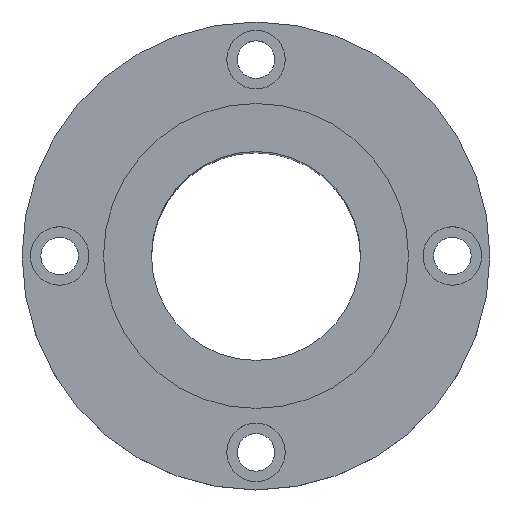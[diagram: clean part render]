
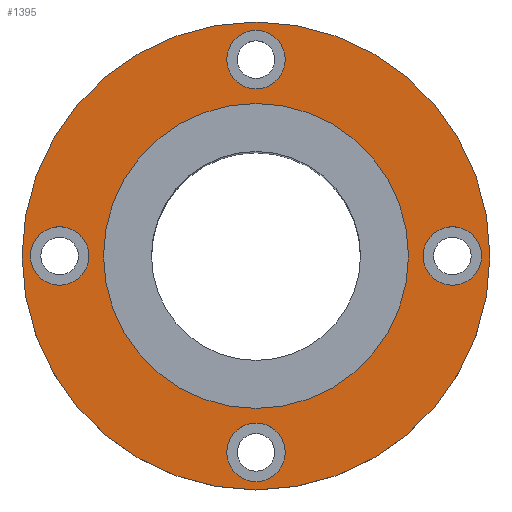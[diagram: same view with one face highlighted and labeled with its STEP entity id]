
A CAD part, top view. The second image highlights one B-rep face of the part: STEP entity #1395.
In plain terms, the highlighted planar face has unit normal (0, 0, 1).
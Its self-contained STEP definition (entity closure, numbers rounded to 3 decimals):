
#133=CARTESIAN_POINT('',(-36.5,0.,96.0));
#134=VERTEX_POINT('',#133);
#143=CARTESIAN_POINT('',(36.5,0.,96.));
#144=VERTEX_POINT('',#143);
#145=CARTESIAN_POINT('',(0.0,0.0,96.));
#146=DIRECTION('',(0.0,0.0,-1.0));
#147=DIRECTION('',(-1.0,0.0,0.0));
#148=AXIS2_PLACEMENT_3D('',#145,#146,#147);
#149=CIRCLE('',#148,36.5);
#150=EDGE_CURVE('',#144,#134,#149,.T.);
#217=CARTESIAN_POINT('',(-56.,0.,96.0));
#218=VERTEX_POINT('',#217);
#227=CARTESIAN_POINT('',(56.,0.,96.));
#228=VERTEX_POINT('',#227);
#229=CARTESIAN_POINT('',(0.0,0.0,96.));
#230=DIRECTION('',(0.0,0.0,-1.0));
#231=DIRECTION('',(-1.0,0.0,0.0));
#232=AXIS2_PLACEMENT_3D('',#229,#230,#231);
#233=CIRCLE('',#232,56.);
#234=EDGE_CURVE('',#218,#228,#233,.T.);
#345=CARTESIAN_POINT('',(54.0,0.0,96.));
#346=VERTEX_POINT('',#345);
#362=CARTESIAN_POINT('',(40.0,0.,96.));
#363=VERTEX_POINT('',#362);
#370=CARTESIAN_POINT('',(47.0,0.0,96.));
#371=DIRECTION('',(0.0,0.0,-1.0));
#372=DIRECTION('',(1.0,0.0,0.0));
#373=AXIS2_PLACEMENT_3D('',#370,#371,#372);
#374=CIRCLE('',#373,7.);
#375=EDGE_CURVE('',#346,#363,#374,.T.);
#471=CARTESIAN_POINT('',(0.,54.0,96.));
#472=VERTEX_POINT('',#471);
#488=CARTESIAN_POINT('',(0.,40.0,96.));
#489=VERTEX_POINT('',#488);
#496=CARTESIAN_POINT('',(0.,47.0,96.));
#497=DIRECTION('',(0.0,0.0,-1.0));
#498=DIRECTION('',(0.0,1.0,0.0));
#499=AXIS2_PLACEMENT_3D('',#496,#497,#498);
#500=CIRCLE('',#499,7.);
#501=EDGE_CURVE('',#472,#489,#500,.T.);
#597=CARTESIAN_POINT('',(-54.0,0.,96.));
#598=VERTEX_POINT('',#597);
#614=CARTESIAN_POINT('',(-40.0,0.,96.));
#615=VERTEX_POINT('',#614);
#622=CARTESIAN_POINT('',(-47.0,0.,96.));
#623=DIRECTION('',(0.0,0.0,-1.0));
#624=DIRECTION('',(-1.0,0.0,0.0));
#625=AXIS2_PLACEMENT_3D('',#622,#623,#624);
#626=CIRCLE('',#625,7.);
#627=EDGE_CURVE('',#598,#615,#626,.T.);
#723=CARTESIAN_POINT('',(0.,-54.0,96.));
#724=VERTEX_POINT('',#723);
#740=CARTESIAN_POINT('',(0.,-40.0,96.));
#741=VERTEX_POINT('',#740);
#748=CARTESIAN_POINT('',(0.,-47.0,96.));
#749=DIRECTION('',(0.0,0.0,-1.0));
#750=DIRECTION('',(0.0,-1.0,0.0));
#751=AXIS2_PLACEMENT_3D('',#748,#749,#750);
#752=CIRCLE('',#751,7.);
#753=EDGE_CURVE('',#724,#741,#752,.T.);
#811=CARTESIAN_POINT('',(0.,-47.0,96.));
#812=DIRECTION('',(0.0,0.0,-1.0));
#813=DIRECTION('',(0.0,-1.0,0.0));
#814=AXIS2_PLACEMENT_3D('',#811,#812,#813);
#815=CIRCLE('',#814,7.);
#816=EDGE_CURVE('',#741,#724,#815,.T.);
#915=CARTESIAN_POINT('',(-47.0,0.,96.));
#916=DIRECTION('',(0.0,0.0,-1.0));
#917=DIRECTION('',(-1.0,0.0,0.0));
#918=AXIS2_PLACEMENT_3D('',#915,#916,#917);
#919=CIRCLE('',#918,7.);
#920=EDGE_CURVE('',#615,#598,#919,.T.);
#1019=CARTESIAN_POINT('',(0.,47.0,96.));
#1020=DIRECTION('',(0.0,0.0,-1.0));
#1021=DIRECTION('',(0.0,1.0,0.0));
#1022=AXIS2_PLACEMENT_3D('',#1019,#1020,#1021);
#1023=CIRCLE('',#1022,7.);
#1024=EDGE_CURVE('',#489,#472,#1023,.T.);
#1123=CARTESIAN_POINT('',(47.0,0.0,96.));
#1124=DIRECTION('',(0.0,0.0,-1.0));
#1125=DIRECTION('',(1.0,0.0,0.0));
#1126=AXIS2_PLACEMENT_3D('',#1123,#1124,#1125);
#1127=CIRCLE('',#1126,7.);
#1128=EDGE_CURVE('',#363,#346,#1127,.T.);
#1188=CARTESIAN_POINT('',(0.0,0.0,96.));
#1189=DIRECTION('',(0.0,0.0,-1.0));
#1190=DIRECTION('',(-1.0,0.0,0.0));
#1191=AXIS2_PLACEMENT_3D('',#1188,#1189,#1190);
#1192=CIRCLE('',#1191,56.);
#1193=EDGE_CURVE('',#228,#218,#1192,.T.);
#1306=CARTESIAN_POINT('',(0.0,0.0,96.));
#1307=DIRECTION('',(0.0,0.0,-1.0));
#1308=DIRECTION('',(-1.0,0.0,0.0));
#1309=AXIS2_PLACEMENT_3D('',#1306,#1307,#1308);
#1310=CIRCLE('',#1309,36.5);
#1311=EDGE_CURVE('',#134,#144,#1310,.T.);
#1366=CARTESIAN_POINT('',(0.0,0.0,96.));
#1367=DIRECTION('',(0.0,0.0,-1.0));
#1368=DIRECTION('',(-1.0,0.0,0.0));
#1369=AXIS2_PLACEMENT_3D('',#1366,#1367,#1368);
#1370=PLANE('',#1369);
#1371=ORIENTED_EDGE('',*,*,#1193,.F.);
#1372=ORIENTED_EDGE('',*,*,#234,.F.);
#1373=EDGE_LOOP('',(#1371,#1372));
#1374=FACE_OUTER_BOUND('',#1373,.T.);
#1375=ORIENTED_EDGE('',*,*,#753,.T.);
#1376=ORIENTED_EDGE('',*,*,#816,.T.);
#1377=EDGE_LOOP('',(#1375,#1376));
#1378=FACE_BOUND('',#1377,.T.);
#1379=ORIENTED_EDGE('',*,*,#627,.T.);
#1380=ORIENTED_EDGE('',*,*,#920,.T.);
#1381=EDGE_LOOP('',(#1379,#1380));
#1382=FACE_BOUND('',#1381,.T.);
#1383=ORIENTED_EDGE('',*,*,#501,.T.);
#1384=ORIENTED_EDGE('',*,*,#1024,.T.);
#1385=EDGE_LOOP('',(#1383,#1384));
#1386=FACE_BOUND('',#1385,.T.);
#1387=ORIENTED_EDGE('',*,*,#375,.T.);
#1388=ORIENTED_EDGE('',*,*,#1128,.T.);
#1389=EDGE_LOOP('',(#1387,#1388));
#1390=FACE_BOUND('',#1389,.T.);
#1391=ORIENTED_EDGE('',*,*,#150,.T.);
#1392=ORIENTED_EDGE('',*,*,#1311,.T.);
#1393=EDGE_LOOP('',(#1391,#1392));
#1394=FACE_BOUND('',#1393,.T.);
#1395=ADVANCED_FACE('',(#1374,#1378,#1382,#1386,#1390,#1394),#1370,.F.);
